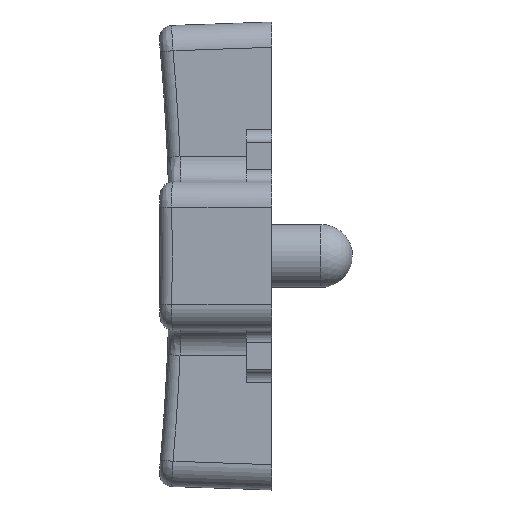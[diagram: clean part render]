
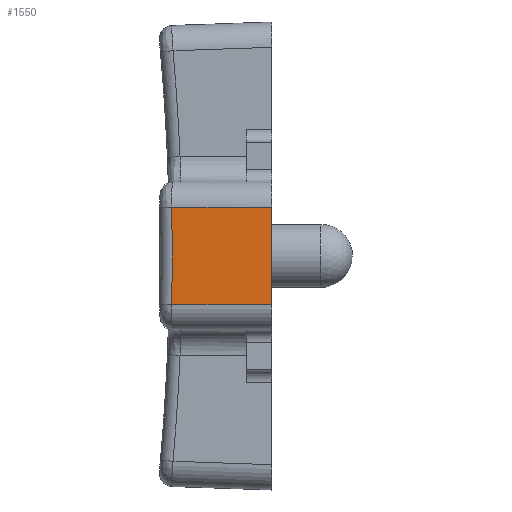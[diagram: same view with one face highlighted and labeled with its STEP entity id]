
A CAD part, left-side view. The second image highlights one B-rep face of the part: STEP entity #1550.
In plain terms, the highlighted planar face has unit normal (-0.999, 0.035, 0).
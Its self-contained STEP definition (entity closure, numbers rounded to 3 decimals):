
#38=PLANE('',#1766);
#124=LINE('',#2963,#217);
#136=LINE('',#2994,#229);
#137=LINE('',#2995,#230);
#217=VECTOR('',#2119,1000.);
#229=VECTOR('',#2147,1000.);
#230=VECTOR('',#2148,1000.);
#338=FACE_OUTER_BOUND('',#431,.T.);
#431=EDGE_LOOP('',(#1212,#1213,#1214,#1215));
#499=CIRCLE('',#1633,90.335);
#619=VERTEX_POINT('',#2344);
#620=VERTEX_POINT('',#2346);
#742=VERTEX_POINT('',#2960);
#743=VERTEX_POINT('',#2962);
#783=EDGE_CURVE('',#620,#619,#499,.T.);
#927=EDGE_CURVE('',#742,#743,#124,.T.);
#944=EDGE_CURVE('',#742,#620,#136,.T.);
#945=EDGE_CURVE('',#619,#743,#137,.T.);
#1212=ORIENTED_EDGE('',*,*,#944,.T.);
#1213=ORIENTED_EDGE('',*,*,#783,.T.);
#1214=ORIENTED_EDGE('',*,*,#945,.T.);
#1215=ORIENTED_EDGE('',*,*,#927,.F.);
#1550=ADVANCED_FACE('',(#338),#38,.T.);
#1633=AXIS2_PLACEMENT_3D('',#2347,#1844,#1845);
#1766=AXIS2_PLACEMENT_3D('',#2993,#2145,#2146);
#1844=DIRECTION('center_axis',(0.999,-0.035,0.));
#1845=DIRECTION('ref_axis',(-0.035,-0.999,0.));
#2119=DIRECTION('',(0.,0.,-1.));
#2145=DIRECTION('center_axis',(-0.999,0.035,0.));
#2146=DIRECTION('ref_axis',(-0.035,-0.999,0.));
#2147=DIRECTION('',(0.035,0.999,0.));
#2148=DIRECTION('',(-0.035,-0.999,0.));
#2344=CARTESIAN_POINT('',(-9.112,3.949,-11.425));
#2346=CARTESIAN_POINT('',(-9.112,3.949,-7.575));
#2347=CARTESIAN_POINT('Origin',(-5.96,94.208,-9.5));
#2960=CARTESIAN_POINT('',(-9.25,0.,-7.575));
#2962=CARTESIAN_POINT('',(-9.25,0.,-11.425));
#2963=CARTESIAN_POINT('',(-9.25,0.,-12.425));
#2993=CARTESIAN_POINT('Origin',(-9.25,0.,-12.425));
#2994=CARTESIAN_POINT('',(-9.25,0.,-7.575));
#2995=CARTESIAN_POINT('',(-9.25,0.,-11.425));
